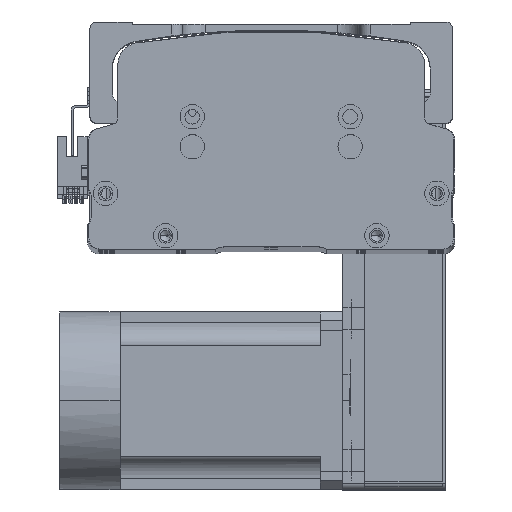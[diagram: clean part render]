
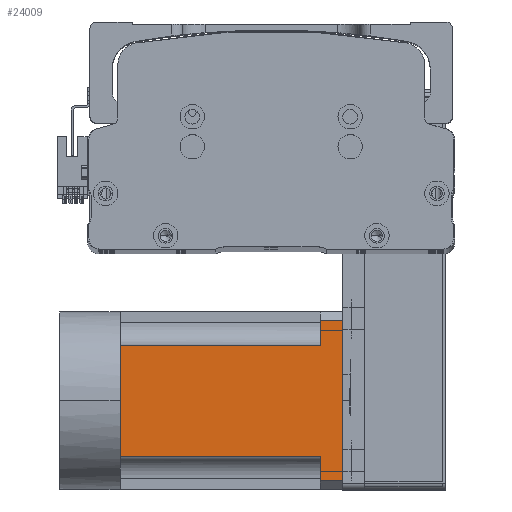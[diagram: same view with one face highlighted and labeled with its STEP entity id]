
A CAD part, top view. The second image highlights one B-rep face of the part: STEP entity #24009.
In plain terms, the highlighted planar face has unit normal (0, 0, 1) as drawn and (0, 0, -1) by its records, which use the part's own axes.
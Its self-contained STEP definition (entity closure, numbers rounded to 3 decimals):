
#1642 = CARTESIAN_POINT ( 'NONE',  ( -25., 0., -40. ) ) ;
#2186 = LINE ( 'NONE', #61685, #40828 ) ;
#3554 = LINE ( 'NONE', #42377, #40628 ) ;
#4443 = EDGE_CURVE ( 'NONE', #56291, #56214, #8276, .T. ) ;
#5084 = CARTESIAN_POINT ( 'NONE',  ( -40., 0., -40. ) ) ;
#5730 = EDGE_CURVE ( 'NONE', #57610, #59555, #21448, .T. ) ;
#6316 = LINE ( 'NONE', #47835, #44957 ) ;
#6541 = DIRECTION ( 'NONE',  ( -1., 0., 0. ) ) ;
#7017 = CARTESIAN_POINT ( 'NONE',  ( 25., 90., -40. ) ) ;
#8276 = LINE ( 'NONE', #55889, #60347 ) ;
#9074 = EDGE_CURVE ( 'NONE', #60717, #57610, #2186, .T. ) ;
#9577 = CARTESIAN_POINT ( 'NONE',  ( 36., 90., -40. ) ) ;
#10124 = DIRECTION ( 'NONE',  ( -1., 0., 0. ) ) ;
#13342 = EDGE_CURVE ( 'NONE', #24079, #46553, #65408, .T. ) ;
#13477 = VERTEX_POINT ( 'NONE', #17285 ) ;
#16954 = CARTESIAN_POINT ( 'NONE',  ( -25., -27., -40. ) ) ;
#17285 = CARTESIAN_POINT ( 'NONE',  ( -36., 90., -40. ) ) ;
#17403 = ORIENTED_EDGE ( 'NONE', *, *, #23819, .T. ) ;
#20534 = VERTEX_POINT ( 'NONE', #9577 ) ;
#20824 = ORIENTED_EDGE ( 'NONE', *, *, #9074, .T. ) ;
#21448 = LINE ( 'NONE', #16954, #34884 ) ;
#21806 = DIRECTION ( 'NONE',  ( 0., 1., 0. ) ) ;
#22255 = DIRECTION ( 'NONE',  ( 0., -1., 0. ) ) ;
#23045 = ORIENTED_EDGE ( 'NONE', *, *, #4443, .T. ) ;
#23819 = EDGE_CURVE ( 'NONE', #13477, #46553, #35037, .T. ) ;
#24009 = ADVANCED_FACE ( 'NONE', ( #39019 ), #63584, .T. ) ;
#24079 = VERTEX_POINT ( 'NONE', #59110 ) ;
#24686 = CARTESIAN_POINT ( 'NONE',  ( -25., 90., -40. ) ) ;
#25024 = VECTOR ( 'NONE', #6541, 1000. ) ;
#25082 = EDGE_LOOP ( 'NONE', ( #59816, #44465, #58313, #23045, #30952, #20824, #40478, #61303, #17403 ) ) ;
#25163 = VECTOR ( 'NONE', #10124, 1000. ) ;
#28455 = DIRECTION ( 'NONE',  ( 0., 0., -1. ) ) ;
#30952 = ORIENTED_EDGE ( 'NONE', *, *, #39503, .T. ) ;
#31459 = EDGE_CURVE ( 'NONE', #20534, #56291, #62796, .T. ) ;
#31490 = DIRECTION ( 'NONE',  ( -1., 0., 0. ) ) ;
#33485 = VECTOR ( 'NONE', #21806, 1000. ) ;
#34884 = VECTOR ( 'NONE', #46952, 1000. ) ;
#35037 = LINE ( 'NONE', #57140, #33485 ) ;
#35901 = VECTOR ( 'NONE', #31490, 1000. ) ;
#36601 = CARTESIAN_POINT ( 'NONE',  ( -36., 100., -40. ) ) ;
#39019 = FACE_OUTER_BOUND ( 'NONE', #25082, .T. ) ;
#39503 = EDGE_CURVE ( 'NONE', #56214, #60717, #65531, .T. ) ;
#40478 = ORIENTED_EDGE ( 'NONE', *, *, #5730, .T. ) ;
#40628 = VECTOR ( 'NONE', #22255, 1000. ) ;
#40828 = VECTOR ( 'NONE', #56561, 1000. ) ;
#41798 = CARTESIAN_POINT ( 'NONE',  ( -40., 100., -40. ) ) ;
#42377 = CARTESIAN_POINT ( 'NONE',  ( 36., -27., -40. ) ) ;
#43462 = CARTESIAN_POINT ( 'NONE',  ( -40., -27., -40. ) ) ;
#44139 = EDGE_CURVE ( 'NONE', #59555, #13477, #6316, .T. ) ;
#44465 = ORIENTED_EDGE ( 'NONE', *, *, #51755, .T. ) ;
#44957 = VECTOR ( 'NONE', #58001, 1000. ) ;
#46553 = VERTEX_POINT ( 'NONE', #36601 ) ;
#46894 = CARTESIAN_POINT ( 'NONE',  ( 25., 0., -40. ) ) ;
#46952 = DIRECTION ( 'NONE',  ( 0., 1., 0. ) ) ;
#47835 = CARTESIAN_POINT ( 'NONE',  ( -40., 90., -40. ) ) ;
#51755 = EDGE_CURVE ( 'NONE', #24079, #20534, #3554, .T. ) ;
#53600 = CARTESIAN_POINT ( 'NONE',  ( 0., 0., -40. ) ) ;
#55889 = CARTESIAN_POINT ( 'NONE',  ( 25., -27., -40. ) ) ;
#56214 = VERTEX_POINT ( 'NONE', #46894 ) ;
#56291 = VERTEX_POINT ( 'NONE', #7017 ) ;
#56561 = DIRECTION ( 'NONE',  ( -1., 0., 0. ) ) ;
#57062 = AXIS2_PLACEMENT_3D ( 'NONE', #43462, #28455, #63804 ) ;
#57140 = CARTESIAN_POINT ( 'NONE',  ( -36., -27., -40. ) ) ;
#57610 = VERTEX_POINT ( 'NONE', #1642 ) ;
#58001 = DIRECTION ( 'NONE',  ( -1., 0., 0. ) ) ;
#58313 = ORIENTED_EDGE ( 'NONE', *, *, #31459, .T. ) ;
#59110 = CARTESIAN_POINT ( 'NONE',  ( 36., 100., -40. ) ) ;
#59555 = VERTEX_POINT ( 'NONE', #24686 ) ;
#59816 = ORIENTED_EDGE ( 'NONE', *, *, #13342, .F. ) ;
#60347 = VECTOR ( 'NONE', #61210, 1000. ) ;
#60717 = VERTEX_POINT ( 'NONE', #53600 ) ;
#61210 = DIRECTION ( 'NONE',  ( 0., -1., 0. ) ) ;
#61303 = ORIENTED_EDGE ( 'NONE', *, *, #44139, .T. ) ;
#61685 = CARTESIAN_POINT ( 'NONE',  ( -40., 0., -40. ) ) ;
#61758 = CARTESIAN_POINT ( 'NONE',  ( -40., 90., -40. ) ) ;
#62796 = LINE ( 'NONE', #61758, #35901 ) ;
#63584 = PLANE ( 'NONE',  #57062 ) ;
#63804 = DIRECTION ( 'NONE',  ( -1., 0., 0. ) ) ;
#65408 = LINE ( 'NONE', #41798, #25024 ) ;
#65531 = LINE ( 'NONE', #5084, #25163 ) ;
